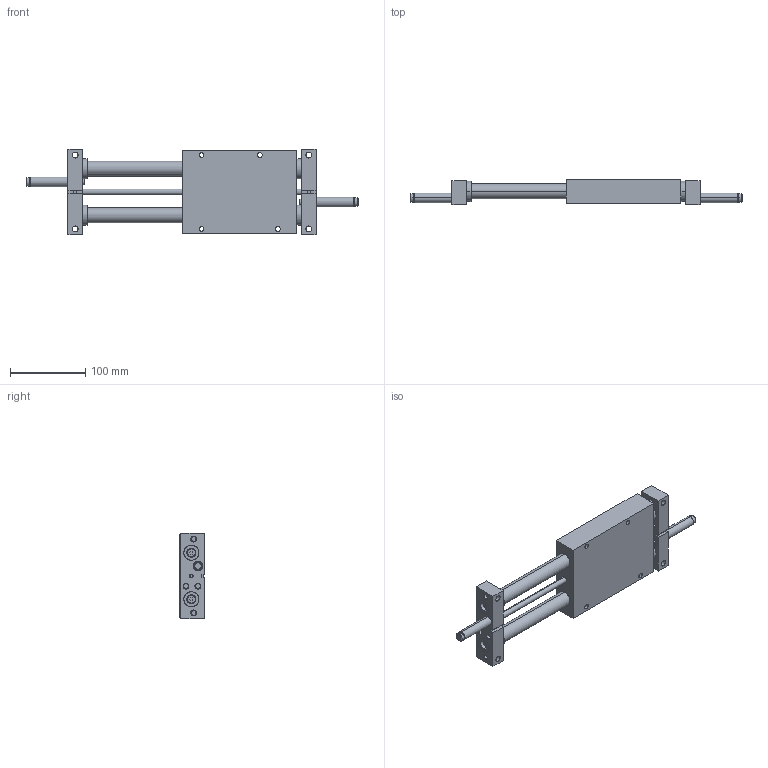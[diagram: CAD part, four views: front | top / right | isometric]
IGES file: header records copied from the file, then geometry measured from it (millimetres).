
Start section: SolidWorks IGES file using analytic representation for surfaces
Global section: file name: C:\Users\jmkuhnes\Pictures\My Transfers\AGS\AGS-5\AGS-5 in MM.IGS; native system: SolidWorks 2013; preprocessor: SolidWorks 2013; author: jmkuhnes; date: 141106.133008; units: millimetre
Bounding box: 441.96 x 33.35 x 114.3 mm (x, y, z)
Surface area: 177870.3 mm2 (no closed solid volume)
Topology: 0 solids, 0 shells, 332 faces, 6042 edges, 6034 vertices
Faces by surface type: revolution 226, bspline 106
